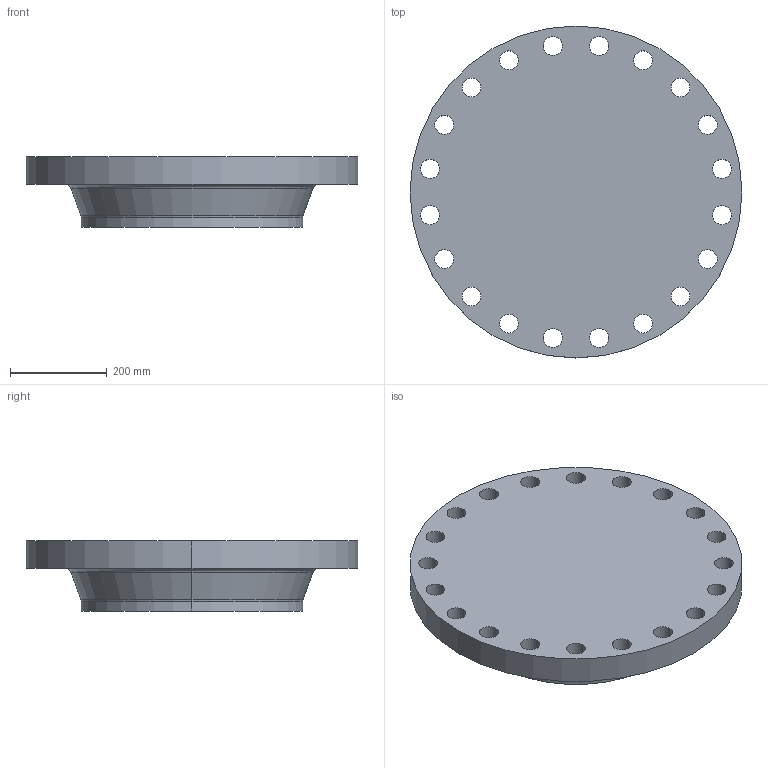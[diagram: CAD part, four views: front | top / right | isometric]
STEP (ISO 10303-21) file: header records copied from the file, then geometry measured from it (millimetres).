
FILE_DESCRIPTION (( 'STEP AP214' ), '1' );
FILE_NAME ('PN40 DN450 Type 21(ii) - Type A Face.STEP', '2018-12-29T04:51:45', ( '' ), ( '' ), 'SwSTEP 2.0', 'SolidWorks 2019', '' );
FILE_SCHEMA (( 'AUTOMOTIVE_DESIGN' ));
Length unit declared in the file: millimetre
Products named in the file (1): PN40 DN450 Type 21(ii) - Type A Face
Bounding box: 685 x 685 x 145 mm (x, y, z)
Volume: 35280075.4 mm3; surface area: 1049543.8 mm2
Topology: 1 solids, 1 shells, 53 faces, 144 edges, 94 vertices
Faces by surface type: cylinder 44, torus 4, plane 3, cone 2
Entity records: 1842 total; most frequent: DIRECTION 350, CARTESIAN_POINT 292, ORIENTED_EDGE 288, AXIS2_PLACEMENT_3D 152, EDGE_CURVE 144, CIRCLE 98, EDGE_LOOP 94, VERTEX_POINT 94
